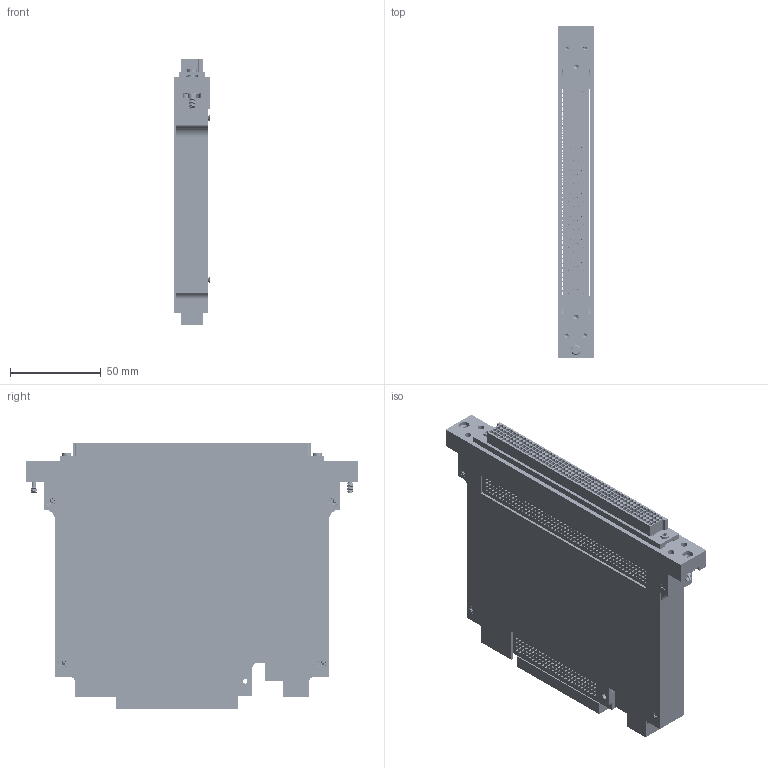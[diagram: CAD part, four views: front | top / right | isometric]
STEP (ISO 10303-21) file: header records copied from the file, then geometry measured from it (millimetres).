
FILE_DESCRIPTION(/* description */ (''),/* implementation_level */ '2;1');
FILE_NAME(/* name */ 'F:\CAD\CAD COMPLETE\web site project\DAKs\561024-RevD-STP\561024-RevD-STP.stp',/* time_stamp */ '2015-06-22T08:36:14+01:00',/* author */ ('davecooper'),/* organization */ (''),/* preprocessor_version */ 'ST-DEVELOPER v15.2',/* originating_system */ 'Autodesk Inventor 2014',/* authorisation */ '');
FILE_SCHEMA (('AUTOMOTIVE_DESIGN { 1 0 10303 214 3 1 1 }'));
Products named in the file (1): 561024-CU
Bounding box: 20.12 x 183.26 x 146.91 mm (x, y, z)
Surface area: 139850.4 mm2 (no closed solid volume)
Topology: 0 solids, 41 shells, 4747 faces, 12537 edges, 8376 vertices
Faces by surface type: plane 3423, cylinder 963, bspline 311, cone 50
Full cylindrical faces by diameter (mm): 1.016 x400, 1.778 x200, 2.184 x16, 2.286 x200, 2.372 x1, 2.381 x2, 2.413 x1, 2.438 x8, 2.54 x5, 2.845 x14, 2.946 x4, 2.997 x1, 3.048 x4, 3.429 x2, 3.734 x5, 3.962 x4, 4.064 x2, 4.572 x1, 4.762 x2, 4.851 x1, 5.08 x2, 5.537 x2, 5.953 x2
Entity records: 146531 total; most frequent: CARTESIAN_POINT 29839, ORIENTED_EDGE 21984, DIRECTION 21094, EDGE_CURVE 10956, LINE 8318, VECTOR 8318, VERTEX_POINT 7715, EDGE_LOOP 7501
